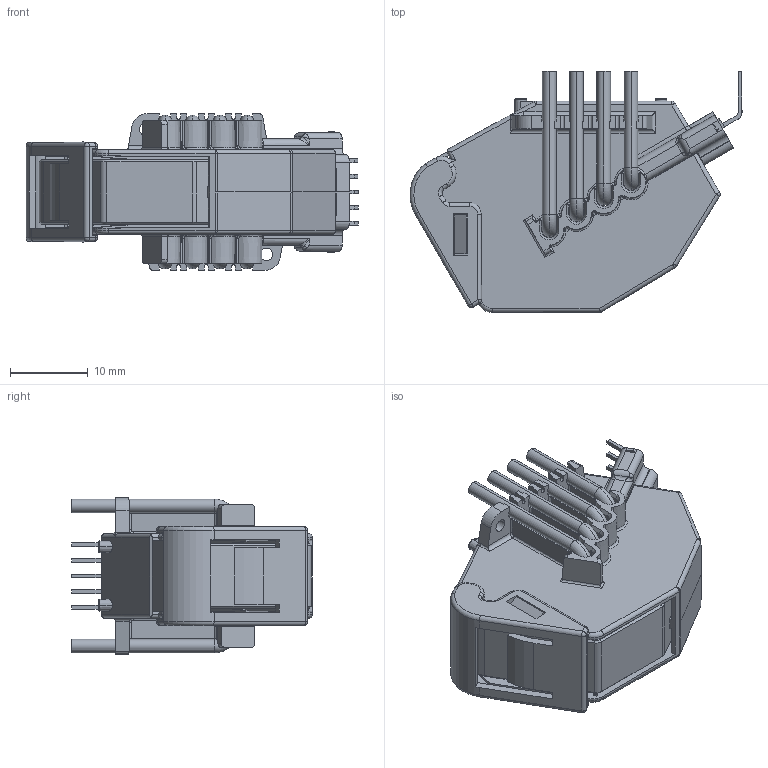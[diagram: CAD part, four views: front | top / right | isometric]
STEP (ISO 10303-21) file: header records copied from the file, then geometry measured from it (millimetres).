
FILE_DESCRIPTION(('Creo Elements/Direct Modeling STEP Export'),'2;1');
FILE_NAME('HO serie.stp','2014-05-16T15:46:18',(''),(''),'Creo Elements/Direct Modeling STEP processor for AP214 (Solid Model)','Creo Elements/Direct Modeling 17.0C 05-Feb-2011 (C) Parametric Technology GmbH','');
FILE_SCHEMA(('AUTOMOTIVE_DESIGN { 1 0 10303 214 1 1 1 1 }'));
Products named in the file (2): BLACK_BOX_HO_150
Assembly tree (1 placements, depth 2):
  BLACK_BOX_HO_150
    BLACK_BOX_HO_150
Bounding box: 42.63 x 30.93 x 20.13 mm (x, y, z)
Volume: 9166.7 mm3; surface area: 10772 mm2
Topology: 1 solids, 2 shells, 1607 faces, 4380 edges, 2719 vertices
Faces by surface type: plane 735, cylinder 379, bspline 247, cone 88, torus 82, extrusion 51, sphere 25
Entity records: 73143 total; most frequent: CARTESIAN_POINT 35131, ORIENTED_EDGE 8678, DIRECTION 6574, EDGE_CURVE 4338, VERTEX_POINT 2719, VECTOR 2468, LINE 2417, AXIS2_PLACEMENT_3D 2053
